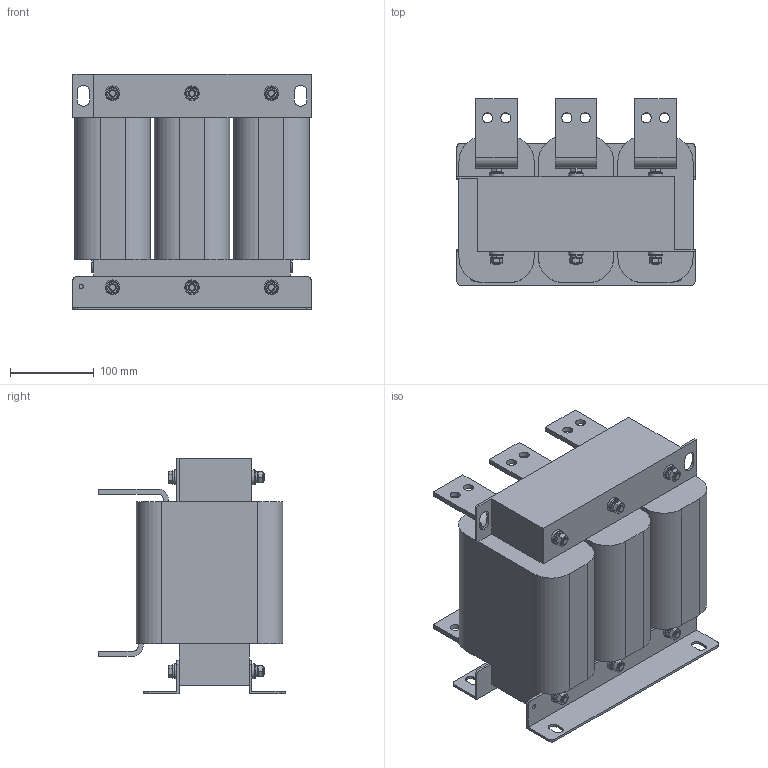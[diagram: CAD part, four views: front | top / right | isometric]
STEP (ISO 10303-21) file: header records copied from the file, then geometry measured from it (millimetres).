
FILE_DESCRIPTION(('STEP AP203'), '1');
FILE_NAME('栖闉罻 _ IMF-315_600-4', '', ('UNSPECIFIED'), ('UNSPECIFIED'), 'ASCON STEP Converter 1.6', 'ASCON Math Kernel', '');
FILE_SCHEMA(('CONFIG_CONTROL_DESIGN'));
Length unit declared in the file: millimetre
Products named in the file (12): IMF-315_600-4
Assembly tree (55 placements, depth 2):
  IMF-315_600-4
    IMF-315_600-4
    IMF-315_600-4  x2
    IMF-315_600-4  x3
    IMF-315_600-4  x3
    IMF-315_600-4  x3
    IMF-315_600-4
    IMF-315_600-4  x12
    IMF-315_600-4  x12
    IMF-315_600-4  x6
    IMF-315_600-4  x6
    IMF-315_600-4  x6
Bounding box: 285 x 223 x 282 mm (x, y, z)
Volume: 10013641.9 mm3; surface area: 682920.3 mm2
Topology: 55 solids, 55 shells, 570 faces, 1200 edges, 746 vertices
Faces by surface type: plane 416, cylinder 130, cone 18, torus 6
Full cylindrical faces by diameter (mm): 5 x2, 8 x48, 12 x12, 16 x12, 17.6 x12
Entity records: 6102 total; most frequent: CARTESIAN_POINT 1005, DIRECTION 798, ORIENTED_EDGE 630, EDGE_CURVE 315, AXIS2_PLACEMENT_3D 284, LINE 230, VECTOR 230, VERTEX_POINT 217
